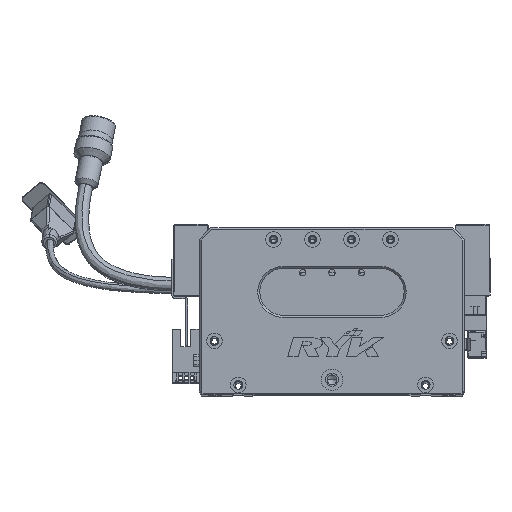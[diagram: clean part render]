
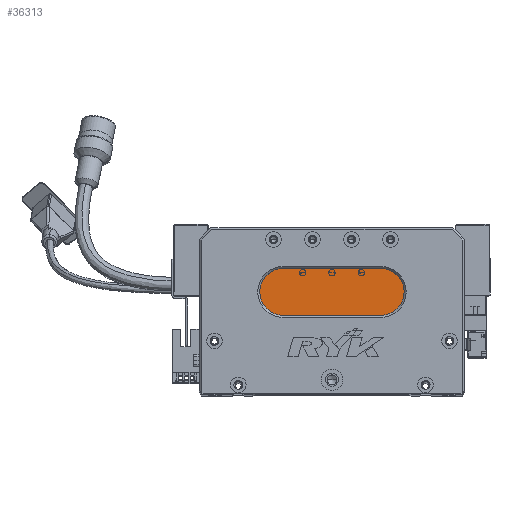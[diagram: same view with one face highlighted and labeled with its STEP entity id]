
A CAD part, top view. The second image highlights one B-rep face of the part: STEP entity #36313.
In plain terms, the highlighted planar face has unit normal (0, 0, 1) as drawn and (0, 0, -1) by its records, which use the part's own axes.
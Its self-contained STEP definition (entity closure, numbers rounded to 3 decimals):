
#576 = DIRECTION ( 'NONE',  ( 0., 0., -1. ) ) ;
#902 = VERTEX_POINT ( 'NONE', #16483 ) ;
#2998 = VERTEX_POINT ( 'NONE', #46565 ) ;
#4940 = CARTESIAN_POINT ( 'NONE',  ( 43., 64., 13. ) ) ;
#5082 = LINE ( 'NONE', #19604, #46829 ) ;
#5950 = VERTEX_POINT ( 'NONE', #4940 ) ;
#7170 = ORIENTED_EDGE ( 'NONE', *, *, #27279, .T. ) ;
#8951 = DIRECTION ( 'NONE',  ( 0., 0., -1. ) ) ;
#11378 = DIRECTION ( 'NONE',  ( -1., 0., 0. ) ) ;
#12172 = FACE_OUTER_BOUND ( 'NONE', #60994, .T. ) ;
#16483 = CARTESIAN_POINT ( 'NONE',  ( 93., 40., 13. ) ) ;
#16512 = ORIENTED_EDGE ( 'NONE', *, *, #63182, .T. ) ;
#18755 = EDGE_CURVE ( 'NONE', #28169, #902, #69001, .T. ) ;
#19604 = CARTESIAN_POINT ( 'NONE',  ( 93., 64., 13. ) ) ;
#20133 = CARTESIAN_POINT ( 'NONE',  ( 93., 40., 13. ) ) ;
#21619 = CARTESIAN_POINT ( 'NONE',  ( 43., 52., 13. ) ) ;
#21779 = DIRECTION ( 'NONE',  ( -1., 0., 0. ) ) ;
#22289 = VECTOR ( 'NONE', #60972, 1000. ) ;
#23696 = ORIENTED_EDGE ( 'NONE', *, *, #37840, .T. ) ;
#25126 = ORIENTED_EDGE ( 'NONE', *, *, #36346, .T. ) ;
#25758 = DIRECTION ( 'NONE',  ( 0., 0., -1. ) ) ;
#27279 = EDGE_CURVE ( 'NONE', #55364, #2998, #42081, .T. ) ;
#28169 = VERTEX_POINT ( 'NONE', #52220 ) ;
#35801 = DIRECTION ( 'NONE',  ( 1., 0., 0. ) ) ;
#36313 = ADVANCED_FACE ( 'NONE', ( #12172 ), #36540, .T. ) ;
#36346 = EDGE_CURVE ( 'NONE', #2998, #5950, #57225, .T. ) ;
#36540 = PLANE ( 'NONE',  #64040 ) ;
#37134 = DIRECTION ( 'NONE',  ( -1., 0., 0. ) ) ;
#37840 = EDGE_CURVE ( 'NONE', #902, #55364, #59806, .T. ) ;
#42081 = CIRCLE ( 'NONE', #55307, 12. ) ;
#46565 = CARTESIAN_POINT ( 'NONE',  ( 31., 52., 13. ) ) ;
#46829 = VECTOR ( 'NONE', #35801, 1000. ) ;
#49119 = ORIENTED_EDGE ( 'NONE', *, *, #18755, .T. ) ;
#52220 = CARTESIAN_POINT ( 'NONE',  ( 93., 64., 13. ) ) ;
#53560 = AXIS2_PLACEMENT_3D ( 'NONE', #64798, #25758, #37134 ) ;
#55307 = AXIS2_PLACEMENT_3D ( 'NONE', #21619, #59735, #11378 ) ;
#55364 = VERTEX_POINT ( 'NONE', #60921 ) ;
#57225 = CIRCLE ( 'NONE', #58994, 12. ) ;
#58203 = CARTESIAN_POINT ( 'NONE',  ( 43., 52., 13. ) ) ;
#58994 = AXIS2_PLACEMENT_3D ( 'NONE', #58203, #576, #21779 ) ;
#59735 = DIRECTION ( 'NONE',  ( 0., 0., -1. ) ) ;
#59806 = LINE ( 'NONE', #20133, #22289 ) ;
#60921 = CARTESIAN_POINT ( 'NONE',  ( 43., 40., 13. ) ) ;
#60972 = DIRECTION ( 'NONE',  ( -1., 0., 0. ) ) ;
#60994 = EDGE_LOOP ( 'NONE', ( #49119, #23696, #7170, #25126, #16512 ) ) ;
#63182 = EDGE_CURVE ( 'NONE', #5950, #28169, #5082, .T. ) ;
#63255 = CARTESIAN_POINT ( 'NONE',  ( 93., 52., 13. ) ) ;
#64040 = AXIS2_PLACEMENT_3D ( 'NONE', #63255, #8951, #70443 ) ;
#64798 = CARTESIAN_POINT ( 'NONE',  ( 93., 52., 13. ) ) ;
#69001 = CIRCLE ( 'NONE', #53560, 12. ) ;
#70443 = DIRECTION ( 'NONE',  ( -1., 0., 0. ) ) ;
